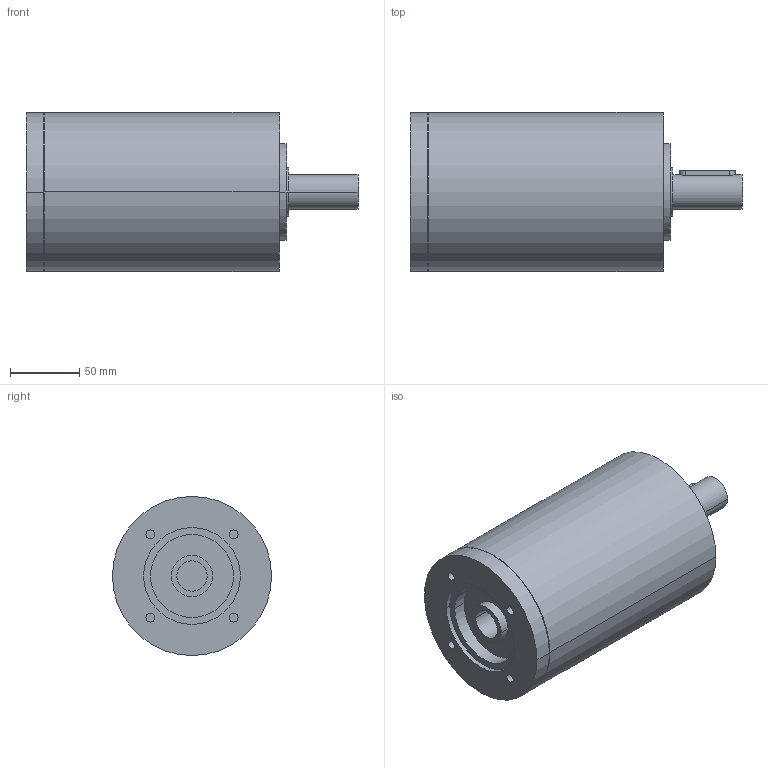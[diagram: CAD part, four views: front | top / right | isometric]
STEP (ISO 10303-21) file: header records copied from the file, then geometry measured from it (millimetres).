
FILE_DESCRIPTION(('CoCreate Modeling STEP Export'),'2;1');
FILE_NAME('GPR125_ig-9-12-16-20-28-35_25_B14_22_P03.stp','2014-08-26T14:10:55',(''),(''),'CoCreate Modeling STEP processor for AP214 (Solid Model)','CoCreate Modeling 16.00C 25-Feb-2009 (C) Parametric Technology GmbH','');
FILE_SCHEMA(('AUTOMOTIVE_DESIGN { 1 0 10303 214 1 1 1 1 }'));
Length unit declared in the file: millimetre
Products named in the file (2): GPR125_ig-9-12-16-20-28-35_25_B14_22_P03
Assembly tree (1 placements, depth 2):
  GPR125_ig-9-12-16-20-28-35_25_B14_22_P03
    GPR125_ig-9-12-16-20-28-35_25_B14_22_P03
Bounding box: 240 x 115 x 115 mm (x, y, z)
Volume: 1882526.4 mm3; surface area: 104152.2 mm2
Topology: 1 solids, 1 shells, 75 faces, 192 edges, 138 vertices
Faces by surface type: cylinder 46, plane 25, cone 4
Entity records: 1935 total; most frequent: ORIENTED_EDGE 380, CARTESIAN_POINT 359, DIRECTION 250, EDGE_CURVE 190, VERTEX_POINT 138, AXIS2_PLACEMENT_3D 97, EDGE_LOOP 96, FACE_OUTER_BOUND 75
